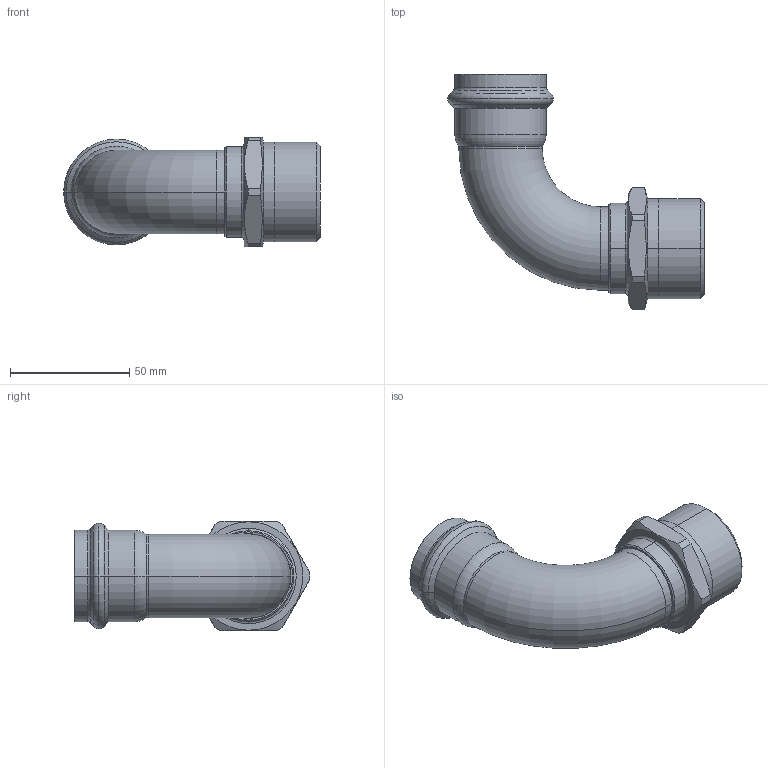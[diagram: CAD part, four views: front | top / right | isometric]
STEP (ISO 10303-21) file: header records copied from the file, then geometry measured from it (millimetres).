
FILE_DESCRIPTION(('CoCreate Modeling STEP Export'),'2;1');
FILE_NAME('8092GVW35114.stp','2013-03-05T11:30:33',(''),(''),'CoCreate Modeling STEP processor for AP214 (Solid Model)','CoCreate Modeling 17.00A 17-Jun-2010 (C) Parametric Technology GmbH','');
FILE_SCHEMA(('AUTOMOTIVE_DESIGN { 1 0 10303 214 1 1 1 1 }'));
Length unit declared in the file: millimetre
Products named in the file (2): 8092GVW35114
Assembly tree (1 placements, depth 2):
  8092GVW35114
    8092GVW35114
Bounding box: 107.65 x 98.95 x 46 mm (x, y, z)
Volume: 41038.3 mm3; surface area: 33889 mm2
Topology: 1 solids, 1 shells, 89 faces, 198 edges, 116 vertices
Faces by surface type: cylinder 34, cone 24, torus 18, plane 13
Entity records: 2859 total; most frequent: CARTESIAN_POINT 1141, ORIENTED_EDGE 396, DIRECTION 286, EDGE_CURVE 198, VERTEX_POINT 116, AXIS2_PLACEMENT_3D 111, EDGE_LOOP 96, FACE_OUTER_BOUND 89
